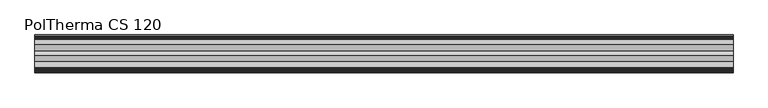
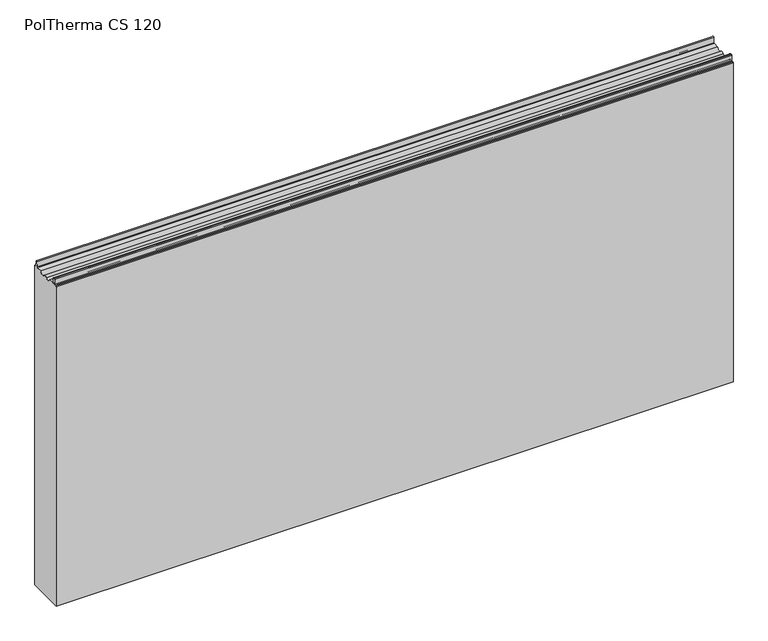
"""IFC4 building model written with IfcOpenShell, lengths in millimetres: plate geometry, Europanels_Poltherma CS_Hz : PolTherma CS 120."""

from ifc_helpers import new_model, si_unit, point, frame, frame_2d, origin, place, context, project, spatial, polyline, circle_curve, trimmed, segment, composite_curve, outline, extrude, source, transform, mapped, element, save


def poltherma_cs_120_1daff7ea(model_context):
    return source(origin(), model_context, "Body", "SweptSolid", [
        extrude(outline(composite_curve([segment(polyline([(-60.0, 0.0), (-60.0, 1096.5011047)]), True, "CONTINUOUS"), segment(trimmed(circle_curve(frame_2d((-58.0, 1096.5011047)), 2.0), [point((-60.0, 1096.5011047))], [point((-58.0, 1098.5011047))], False, "CARTESIAN"), True, "CONTINUOUS"), segment(polyline([(-58.0, 1098.5011047), (-54.244573, 1098.5011047)]), True, "CONTINUOUS"), segment(trimmed(circle_curve(frame_2d((-54.244573, 1100.5011047)), 2.0), [point((-54.244573, 1098.5011047))], [point((-52.2483736, 1100.3778643))], True, "CARTESIAN"), True, "CONTINUOUS"), segment(polyline([(-52.2483736, 1100.3778643), (-51.1836192, 1117.624345)]), True, "CONTINUOUS"), segment(trimmed(circle_curve(frame_2d((-49.1874198, 1117.5011047)), 2.0), [point((-51.1836192, 1117.624345))], [point((-49.1874198, 1119.5011047))], False, "CARTESIAN"), True, "CONTINUOUS"), segment(polyline([(-49.1874198, 1119.5011047), (-46.4480373, 1119.5011047)]), True, "CONTINUOUS"), segment(trimmed(circle_curve(frame_2d((-46.4480373, 1117.5011047)), 2.0), [point((-46.4480373, 1119.5011047))], [point((-44.4498501, 1117.5862394))], False, "CARTESIAN"), True, "CONTINUOUS"), segment(polyline([(-44.4498501, 1117.5862394), (-43.7101357, 1100.2244834)]), True, "CONTINUOUS"), segment(trimmed(circle_curve(frame_2d((-41.9117672, 1100.3011047)), 1.8), [point((-43.7101357, 1100.2244834))], [point((-41.9117672, 1098.5011047))], True, "CARTESIAN"), True, "CONTINUOUS"), segment(polyline([(-41.9117672, 1098.5011047), (-22.9234285, 1098.5011047)]), True, "CONTINUOUS"), segment(trimmed(circle_curve(frame_2d((-12.3, 1101.354658)), 11.0), [point((-22.9234285, 1098.5011047))], [point((-4.05, 1094.0788419))], True, "CARTESIAN"), True, "CONTINUOUS"), segment(trimmed(circle_curve(frame_2d((2.7, 1088.1259015)), 9.0), [point((-4.05, 1094.0788419))], [point((9.45, 1094.0788419))], False, "CARTESIAN"), True, "CONTINUOUS"), segment(trimmed(circle_curve(frame_2d((17.7, 1101.354658)), 11.0), [point((9.45, 1094.0788419))], [point((28.3234285, 1098.5011047))], True, "CARTESIAN"), True, "CONTINUOUS"), segment(polyline([(28.3234285, 1098.5011047), (46.113894, 1098.5011047)]), True, "CONTINUOUS"), segment(trimmed(circle_curve(frame_2d((46.113894, 1100.5011047)), 2.0), [point((46.113894, 1098.5011047))], [point((48.1120505, 1100.4152514))], True, "CARTESIAN"), True, "CONTINUOUS"), segment(polyline([(48.1120505, 1100.4152514), (48.8434291, 1117.437418)]), True, "CONTINUOUS"), segment(trimmed(circle_curve(frame_2d((51.0191836, 1117.343934)), 2.1777619), [point((48.8434291, 1117.437418))], [point((53.1927202, 1117.4795275))], False, "CARTESIAN"), True, "CONTINUOUS"), segment(polyline([(53.1927202, 1117.4795275), (54.2596673, 1100.3765791)]), True, "CONTINUOUS"), segment(trimmed(circle_curve(frame_2d((56.2557869, 1100.5011047)), 2.0), [point((54.2596673, 1100.3765791))], [point((56.2557869, 1098.5011047))], True, "CARTESIAN"), True, "CONTINUOUS"), segment(polyline([(56.2557869, 1098.5011047), (58.0, 1098.5011047)]), True, "CONTINUOUS"), segment(trimmed(circle_curve(frame_2d((58.0, 1096.5011047)), 2.0), [point((58.0, 1098.5011047))], [point((60.0, 1096.5011047))], False, "CARTESIAN"), True, "CONTINUOUS"), segment(polyline([(60.0, 1096.5011047), (60.0, 0.0), (-60.0, 0.0)]), True, "CONTINUOUS")], self_intersect=False)), frame((-1100.0, 0.0, 0.0), z_axis=(1.0, 0.0, 0.0), x_axis=(0.0, 1.0, 0.0)), (0.0, 0.0, 1.0), 2200.0),
    ])


if __name__ == "__main__":
    model = new_model("IFC4")
    model_context = context("Model", 3, world=origin())
    ifc_project = project(units=[si_unit("LENGTHUNIT", "METRE", prefix="MILLI")], contexts=[model_context])
    site = spatial("IfcSite", under=ifc_project)
    building = spatial("IfcBuilding", under=site)
    placement = place(None, origin())
    poltherma_cs_120_shape = poltherma_cs_120_1daff7ea(model_context)
    element("IfcPlate", 1, ObjectType="Europanels_Poltherma CS_Hz : PolTherma CS 120", at=placement, inside=building, context=model_context, shape_type="MappedRepresentation", body=[
        mapped(poltherma_cs_120_shape, transform((0.0, 0.0, 0.0), x_axis=(1.0, 0.0, 0.0), y_axis=(0.0, 1.0, 0.0), z_axis=(0.0, 0.0, 1.0))),
    ])
    save(model, "model.ifc")
